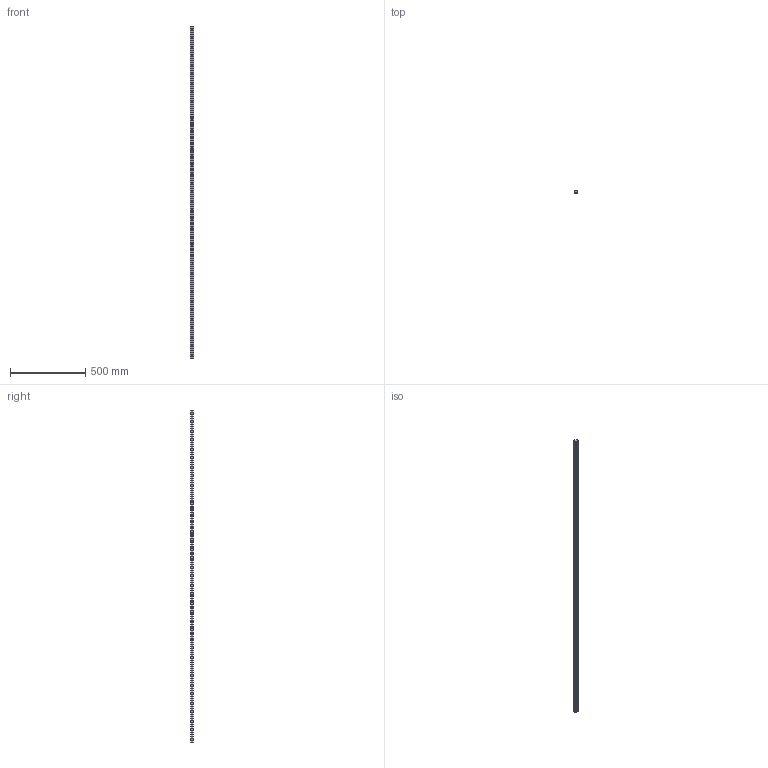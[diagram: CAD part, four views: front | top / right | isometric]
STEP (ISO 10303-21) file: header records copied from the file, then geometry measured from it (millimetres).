
FILE_DESCRIPTION (( 'STEP AP203' ), '1' );
FILE_NAME ('L1016.BRF25-2200.step', '2019-06-13T08:41:19', ( '' ), ( '' ), 'SwSTEP 2.0', 'SolidWorks 2017', '' );
FILE_SCHEMA (( 'CONFIG_CONTROL_DESIGN' ));
Length unit declared in the file: millimetre
Products named in the file (1): L1016.BRF25-2200
Bounding box: 23 x 19.2 x 2200 mm (x, y, z)
Volume: 839934.4 mm3; surface area: 202675.2 mm2
Topology: 1 solids, 1 shells, 285 faces, 664 edges, 381 vertices
Faces by surface type: cylinder 152, cone 74, plane 59
Entity records: 7709 total; most frequent: DIRECTION 1466, CARTESIAN_POINT 1257, ORIENTED_EDGE 1180, AXIS2_PLACEMENT_3D 590, EDGE_CURVE 590, VERTEX_POINT 381, EDGE_LOOP 359, CIRCLE 304
